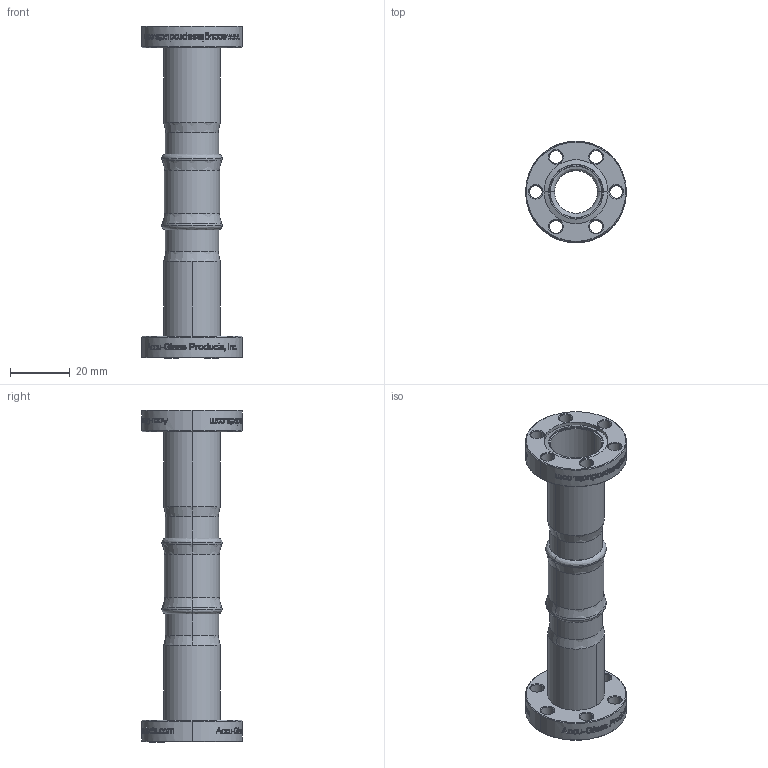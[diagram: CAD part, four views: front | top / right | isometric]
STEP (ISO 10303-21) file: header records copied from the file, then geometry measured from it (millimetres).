
FILE_DESCRIPTION (( 'STEP AP203' ), '1' );
FILE_NAME ('211055.stp', '2018-05-16T21:15:55', ( '' ), ( '' ), 'SwSTEP 2.0', 'SolidWorks 2012', '' );
FILE_SCHEMA (( 'CONFIG_CONTROL_DESIGN' ));
Length unit declared in the file: centimetre
Products named in the file (1): 211055
Bounding box: 33.78 x 33.78 x 111.12 mm (x, y, z)
Volume: 13081.2 mm3; surface area: 16898.6 mm2
Topology: 1 solids, 1 shells, 1750 faces, 4774 edges, 3150 vertices
Faces by surface type: bspline 1052, plane 462, cylinder 172, cone 64
Entity records: 128601 total; most frequent: CARTESIAN_POINT 90755, ORIENTED_EDGE 9548, DIRECTION 4826, EDGE_CURVE 4774, VERTEX_POINT 3150, B_SPLINE_CURVE_WITH_KNOTS 2056, VECTOR 2008, LINE 2008
